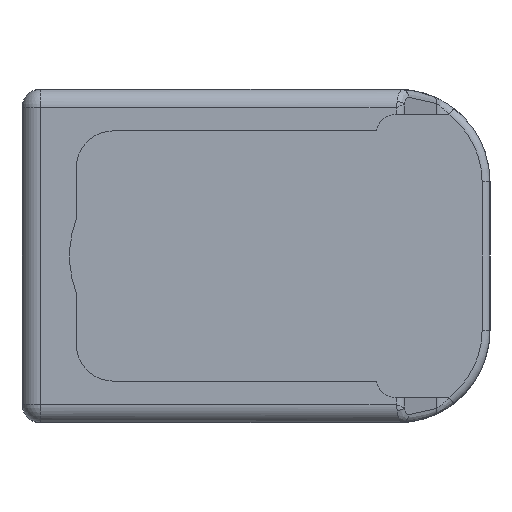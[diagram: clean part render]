
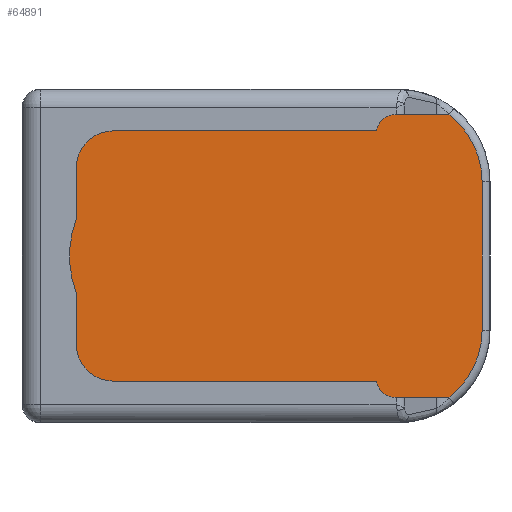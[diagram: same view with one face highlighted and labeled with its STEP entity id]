
A CAD part, left-side view. The second image highlights one B-rep face of the part: STEP entity #64891.
In plain terms, the highlighted planar face has unit normal (-1, 0, 0).
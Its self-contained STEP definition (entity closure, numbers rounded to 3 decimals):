
#1487 = DIRECTION ( 'NONE',  ( 0., 0., -1. ) ) ;
#1662 = DIRECTION ( 'NONE',  ( 0., 0., 1. ) ) ;
#2377 = ORIENTED_EDGE ( 'NONE', *, *, #38737, .T. ) ;
#3144 = DIRECTION ( 'NONE',  ( 0., 0., 1. ) ) ;
#5423 = VERTEX_POINT ( 'NONE', #36970 ) ;
#6069 = DIRECTION ( 'NONE',  ( 0., 0., -1. ) ) ;
#9421 = VECTOR ( 'NONE', #40639, 1000. ) ;
#9448 = LINE ( 'NONE', #44001, #30060 ) ;
#10482 = EDGE_CURVE ( 'NONE', #85319, #76384, #57667, .T. ) ;
#10607 = ORIENTED_EDGE ( 'NONE', *, *, #18271, .F. ) ;
#11724 = CIRCLE ( 'NONE', #28680, 9.75 ) ;
#12591 = CIRCLE ( 'NONE', #45100, 22.25 ) ;
#14188 = VERTEX_POINT ( 'NONE', #44156 ) ;
#14509 = VERTEX_POINT ( 'NONE', #71847 ) ;
#16854 = CIRCLE ( 'NONE', #39518, 18.3 ) ;
#17009 = EDGE_CURVE ( 'NONE', #85319, #14509, #21326, .T. ) ;
#17254 = EDGE_CURVE ( 'NONE', #49214, #86081, #55498, .T. ) ;
#18201 = DIRECTION ( 'NONE',  ( 0., -1., 0. ) ) ;
#18271 = EDGE_CURVE ( 'NONE', #86081, #5423, #12591, .T. ) ;
#18899 = ORIENTED_EDGE ( 'NONE', *, *, #17009, .F. ) ;
#20492 = CARTESIAN_POINT ( 'NONE',  ( -329.6, -59.648, 27. ) ) ;
#21326 = LINE ( 'NONE', #77349, #47602 ) ;
#21341 = AXIS2_PLACEMENT_3D ( 'NONE', #28309, #55263, #69006 ) ;
#21571 = CARTESIAN_POINT ( 'NONE',  ( -329.6, -59.648, -30.512 ) ) ;
#23347 = EDGE_CURVE ( 'NONE', #86310, #50703, #38064, .T. ) ;
#26048 = ORIENTED_EDGE ( 'NONE', *, *, #87150, .T. ) ;
#28309 = CARTESIAN_POINT ( 'NONE',  ( -329.6, -48.5, -16. ) ) ;
#28680 = AXIS2_PLACEMENT_3D ( 'NONE', #36152, #43723, #37910 ) ;
#29320 = CARTESIAN_POINT ( 'NONE',  ( -329.6, -48.5, 16. ) ) ;
#29699 = EDGE_CURVE ( 'NONE', #82464, #14509, #9448, .T. ) ;
#30060 = VECTOR ( 'NONE', #83705, 1000. ) ;
#30527 = DIRECTION ( 'NONE',  ( 0., -1., 0. ) ) ;
#31947 = DIRECTION ( 'NONE',  ( 1., 0., 0. ) ) ;
#32240 = EDGE_CURVE ( 'NONE', #50791, #86310, #44042, .T. ) ;
#32964 = CARTESIAN_POINT ( 'NONE',  ( -329.6, -68.5, 27. ) ) ;
#33400 = DIRECTION ( 'NONE',  ( 0., 0., -1. ) ) ;
#33476 = CARTESIAN_POINT ( 'NONE',  ( -329.6, -59.648, -30.5 ) ) ;
#33900 = DIRECTION ( 'NONE',  ( -1., 0., 0. ) ) ;
#36152 = CARTESIAN_POINT ( 'NONE',  ( -329.6, 11.05, -20.75 ) ) ;
#36970 = CARTESIAN_POINT ( 'NONE',  ( -329.6, 20.8, 7.901 ) ) ;
#37868 = FACE_OUTER_BOUND ( 'NONE', #74675, .T. ) ;
#37910 = DIRECTION ( 'NONE',  ( 0., 0., 1. ) ) ;
#38064 = LINE ( 'NONE', #78254, #47312 ) ;
#38737 = EDGE_CURVE ( 'NONE', #14188, #58563, #46856, .T. ) ;
#39518 = AXIS2_PLACEMENT_3D ( 'NONE', #29320, #50565, #1487 ) ;
#40639 = DIRECTION ( 'NONE',  ( 0., -1., 0. ) ) ;
#41040 = VECTOR ( 'NONE', #1662, 1000. ) ;
#42206 = DIRECTION ( 'NONE',  ( 0., 0., -1. ) ) ;
#43723 = DIRECTION ( 'NONE',  ( 1., 0., 0. ) ) ;
#44001 = CARTESIAN_POINT ( 'NONE',  ( -329.6, -59.648, 27. ) ) ;
#44042 = CIRCLE ( 'NONE', #21341, 18.3 ) ;
#44069 = CARTESIAN_POINT ( 'NONE',  ( -329.6, 20.8, -30.5 ) ) ;
#44156 = CARTESIAN_POINT ( 'NONE',  ( -329.6, 11.05, -30.5 ) ) ;
#45100 = AXIS2_PLACEMENT_3D ( 'NONE', #58019, #31947, #18201 ) ;
#46856 = LINE ( 'NONE', #61830, #9421 ) ;
#47312 = VECTOR ( 'NONE', #3144, 1000. ) ;
#47602 = VECTOR ( 'NONE', #30527, 1000. ) ;
#47840 = ORIENTED_EDGE ( 'NONE', *, *, #17254, .F. ) ;
#48426 = CARTESIAN_POINT ( 'NONE',  ( -329.6, 11.05, 30.5 ) ) ;
#49059 = ORIENTED_EDGE ( 'NONE', *, *, #32240, .T. ) ;
#49214 = VERTEX_POINT ( 'NONE', #61051 ) ;
#49733 = EDGE_CURVE ( 'NONE', #5423, #76384, #62249, .T. ) ;
#49783 = ORIENTED_EDGE ( 'NONE', *, *, #60451, .F. ) ;
#50545 = AXIS2_PLACEMENT_3D ( 'NONE', #32964, #86455, #33400 ) ;
#50565 = DIRECTION ( 'NONE',  ( -1., 0., 0. ) ) ;
#50703 = VERTEX_POINT ( 'NONE', #65914 ) ;
#50791 = VERTEX_POINT ( 'NONE', #21571 ) ;
#52301 = ORIENTED_EDGE ( 'NONE', *, *, #10482, .T. ) ;
#54620 = VECTOR ( 'NONE', #42206, 1000. ) ;
#55263 = DIRECTION ( 'NONE',  ( -1., 0., 0. ) ) ;
#55407 = LINE ( 'NONE', #20492, #54620 ) ;
#55498 = LINE ( 'NONE', #44069, #58942 ) ;
#57667 = CIRCLE ( 'NONE', #80258, 9.75 ) ;
#58019 = CARTESIAN_POINT ( 'NONE',  ( -329.6, 0., 0. ) ) ;
#58563 = VERTEX_POINT ( 'NONE', #33476 ) ;
#58942 = VECTOR ( 'NONE', #77149, 1000. ) ;
#59452 = CARTESIAN_POINT ( 'NONE',  ( -329.6, -59.648, 30.512 ) ) ;
#59563 = CARTESIAN_POINT ( 'NONE',  ( -329.6, 11.05, 20.75 ) ) ;
#60451 = EDGE_CURVE ( 'NONE', #14188, #49214, #11724, .T. ) ;
#61051 = CARTESIAN_POINT ( 'NONE',  ( -329.6, 20.8, -20.75 ) ) ;
#61830 = CARTESIAN_POINT ( 'NONE',  ( -329.6, 20.8, -30.5 ) ) ;
#62249 = LINE ( 'NONE', #68440, #41040 ) ;
#62930 = EDGE_CURVE ( 'NONE', #58563, #50791, #55407, .T. ) ;
#64879 = PLANE ( 'NONE',  #50545 ) ;
#64891 = ADVANCED_FACE ( 'NONE', ( #37868 ), #64879, .T. ) ;
#65914 = CARTESIAN_POINT ( 'NONE',  ( -329.6, -66.8, 16. ) ) ;
#68440 = CARTESIAN_POINT ( 'NONE',  ( -329.6, 20.8, -30.5 ) ) ;
#69006 = DIRECTION ( 'NONE',  ( 0., 0., -1. ) ) ;
#69385 = ORIENTED_EDGE ( 'NONE', *, *, #62930, .T. ) ;
#71847 = CARTESIAN_POINT ( 'NONE',  ( -329.6, -59.648, 30.5 ) ) ;
#72375 = ORIENTED_EDGE ( 'NONE', *, *, #49733, .F. ) ;
#74675 = EDGE_LOOP ( 'NONE', ( #72375, #10607, #47840, #49783, #2377, #69385, #49059, #79457, #26048, #81261, #18899, #52301 ) ) ;
#76384 = VERTEX_POINT ( 'NONE', #79906 ) ;
#77149 = DIRECTION ( 'NONE',  ( 0., 0., 1. ) ) ;
#77349 = CARTESIAN_POINT ( 'NONE',  ( -329.6, 20.8, 30.5 ) ) ;
#78254 = CARTESIAN_POINT ( 'NONE',  ( -329.6, -66.8, 27. ) ) ;
#79457 = ORIENTED_EDGE ( 'NONE', *, *, #23347, .T. ) ;
#79906 = CARTESIAN_POINT ( 'NONE',  ( -329.6, 20.8, 20.75 ) ) ;
#80258 = AXIS2_PLACEMENT_3D ( 'NONE', #59563, #33900, #6069 ) ;
#81261 = ORIENTED_EDGE ( 'NONE', *, *, #29699, .T. ) ;
#82464 = VERTEX_POINT ( 'NONE', #59452 ) ;
#83705 = DIRECTION ( 'NONE',  ( 0., 0., -1. ) ) ;
#84631 = CARTESIAN_POINT ( 'NONE',  ( -329.6, -66.8, -16. ) ) ;
#85319 = VERTEX_POINT ( 'NONE', #48426 ) ;
#85629 = CARTESIAN_POINT ( 'NONE',  ( -329.6, 20.8, -7.901 ) ) ;
#86081 = VERTEX_POINT ( 'NONE', #85629 ) ;
#86310 = VERTEX_POINT ( 'NONE', #84631 ) ;
#86455 = DIRECTION ( 'NONE',  ( -1., 0., 0. ) ) ;
#87150 = EDGE_CURVE ( 'NONE', #50703, #82464, #16854, .T. ) ;
